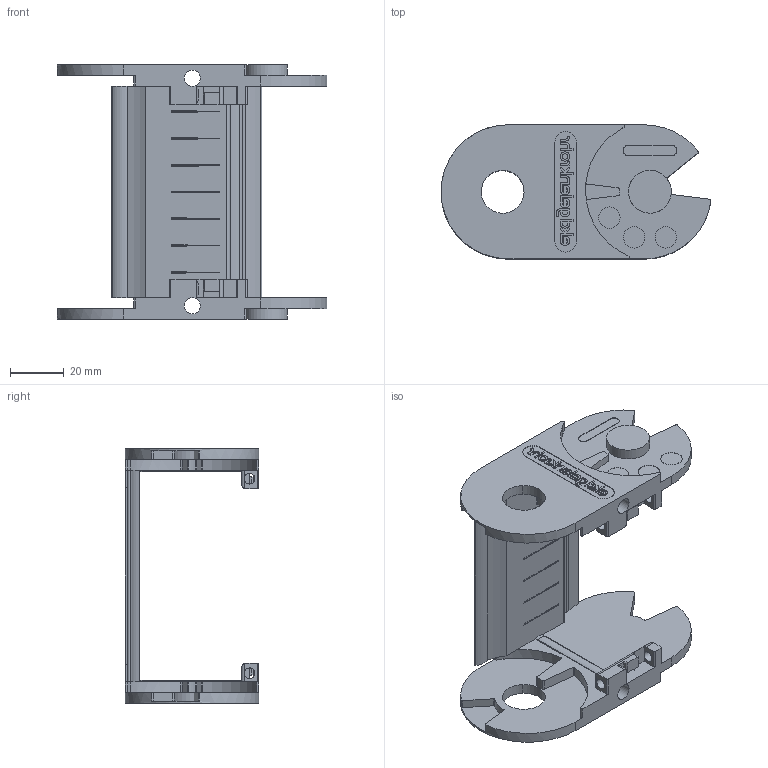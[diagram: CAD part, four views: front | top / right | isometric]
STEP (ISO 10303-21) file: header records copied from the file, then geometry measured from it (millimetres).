
FILE_DESCRIPTION((''),'2;1');
FILE_NAME('C:\Uebbing\PARAMETERKETTEN\KOLIBRI\Kol_50_095_5\Kol_50_095_5_Lasche.stp','2015-06-24T14:03:13',('Uebbing'),(''),'Autodesk Inventor 10','Autodesk Inventor 10','');
FILE_SCHEMA(('AUTOMOTIVE_DESIGN { 1 0 10303 214 1 1 1 1 }'));
Length unit declared in the file: millimetre
Products named in the file (1): Kol_50_095_5_Lasche
Bounding box: 100.78 x 50 x 95 mm (x, y, z)
Volume: 49656.9 mm3; surface area: 34919.5 mm2
Topology: 1 solids, 1 shells, 545 faces, 1490 edges, 981 vertices
Faces by surface type: plane 363, cylinder 176, bspline 6
Full cylindrical faces by diameter (mm): 2.011 x2, 3.531 x2, 4 x4, 6 x2, 8 x6, 16 x2
Entity records: 17265 total; most frequent: CARTESIAN_POINT 3148, ORIENTED_EDGE 2936, DIRECTION 2904, EDGE_CURVE 1468, VECTOR 1086, LINE 1086, VERTEX_POINT 977, AXIS2_PLACEMENT_3D 909
